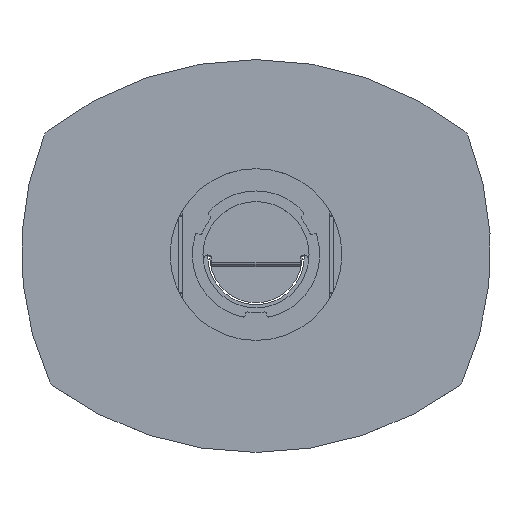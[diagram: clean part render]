
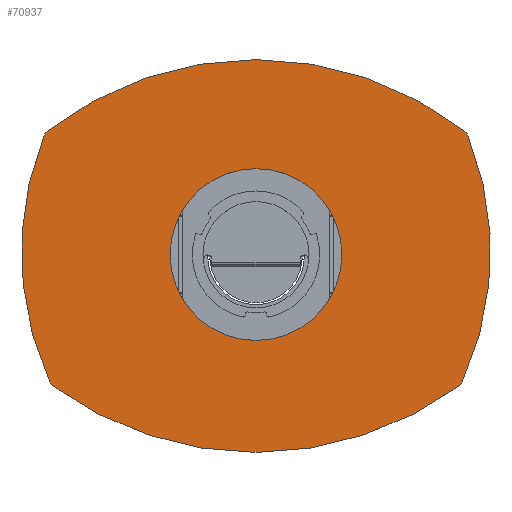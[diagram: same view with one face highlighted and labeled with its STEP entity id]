
A CAD part, top view. The second image highlights one B-rep face of the part: STEP entity #70937.
In plain terms, the highlighted planar face has unit normal (0, 0, 1).
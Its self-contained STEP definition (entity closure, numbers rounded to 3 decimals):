
#4810=CIRCLE('',#77086,89.);
#4813=CIRCLE('',#77090,10.);
#4814=CIRCLE('',#77092,355.);
#4815=CIRCLE('',#77093,10.);
#4816=CIRCLE('',#77094,323.);
#4817=CIRCLE('',#77095,10.);
#4818=CIRCLE('',#77096,352.);
#4819=CIRCLE('',#77097,10.);
#4820=CIRCLE('',#77098,323.);
#5104=FACE_BOUND('',#12576,.T.);
#8698=FACE_OUTER_BOUND('',#12575,.T.);
#12575=EDGE_LOOP('',(#61507,#61508,#61509,#61510,#61511,#61512,#61513,#61514));
#12576=EDGE_LOOP('',(#61515));
#32009=VERTEX_POINT('',#123781);
#32013=VERTEX_POINT('',#123790);
#32014=VERTEX_POINT('',#123792);
#32015=VERTEX_POINT('',#123796);
#32016=VERTEX_POINT('',#123798);
#32017=VERTEX_POINT('',#123800);
#32018=VERTEX_POINT('',#123802);
#32019=VERTEX_POINT('',#123804);
#32020=VERTEX_POINT('',#123806);
#41842=EDGE_CURVE('',#32009,#32009,#4810,.T.);
#41847=EDGE_CURVE('',#32013,#32014,#4813,.T.);
#41849=EDGE_CURVE('',#32015,#32013,#4814,.T.);
#41850=EDGE_CURVE('',#32016,#32015,#4815,.T.);
#41851=EDGE_CURVE('',#32017,#32016,#4816,.T.);
#41852=EDGE_CURVE('',#32018,#32017,#4817,.T.);
#41853=EDGE_CURVE('',#32019,#32018,#4818,.T.);
#41854=EDGE_CURVE('',#32020,#32019,#4819,.T.);
#41855=EDGE_CURVE('',#32014,#32020,#4820,.T.);
#61507=ORIENTED_EDGE('',*,*,#41847,.F.);
#61508=ORIENTED_EDGE('',*,*,#41849,.F.);
#61509=ORIENTED_EDGE('',*,*,#41850,.F.);
#61510=ORIENTED_EDGE('',*,*,#41851,.F.);
#61511=ORIENTED_EDGE('',*,*,#41852,.F.);
#61512=ORIENTED_EDGE('',*,*,#41853,.F.);
#61513=ORIENTED_EDGE('',*,*,#41854,.F.);
#61514=ORIENTED_EDGE('',*,*,#41855,.F.);
#61515=ORIENTED_EDGE('',*,*,#41842,.T.);
#63686=PLANE('',#77091);
#70937=ADVANCED_FACE('',(#8698,#5104),#63686,.F.);
#77086=AXIS2_PLACEMENT_3D('',#123782,#95785,#95786);
#77090=AXIS2_PLACEMENT_3D('',#123793,#95795,#95796);
#77091=AXIS2_PLACEMENT_3D('',#123795,#95798,#95799);
#77092=AXIS2_PLACEMENT_3D('',#123797,#95800,#95801);
#77093=AXIS2_PLACEMENT_3D('',#123799,#95802,#95803);
#77094=AXIS2_PLACEMENT_3D('',#123801,#95804,#95805);
#77095=AXIS2_PLACEMENT_3D('',#123803,#95806,#95807);
#77096=AXIS2_PLACEMENT_3D('',#123805,#95808,#95809);
#77097=AXIS2_PLACEMENT_3D('',#123807,#95810,#95811);
#77098=AXIS2_PLACEMENT_3D('',#123808,#95812,#95813);
#95785=DIRECTION('center_axis',(0.,0.,
-1.));
#95786=DIRECTION('ref_axis',(1.,0.,0.));
#95795=DIRECTION('center_axis',(0.,0.,
-1.));
#95796=DIRECTION('ref_axis',(-0.776,-0.631,0.));
#95798=DIRECTION('center_axis',(0.,0.,
-1.));
#95799=DIRECTION('ref_axis',(1.,0.,0.));
#95800=DIRECTION('center_axis',(0.,0.,
-1.));
#95801=DIRECTION('ref_axis',(0.599,-0.801,0.));
#95802=DIRECTION('center_axis',(0.,0.,
-1.));
#95803=DIRECTION('ref_axis',(0.776,-0.631,0.));
#95804=DIRECTION('center_axis',(0.,0.,
-1.));
#95805=DIRECTION('ref_axis',(0.924,0.382,0.));
#95806=DIRECTION('center_axis',(0.,0.,
-1.));
#95807=DIRECTION('ref_axis',(0.798,0.602,0.));
#95808=DIRECTION('center_axis',(0.,0.,
-1.));
#95809=DIRECTION('ref_axis',(-0.621,0.784,0.));
#95810=DIRECTION('center_axis',(0.,0.,
-1.));
#95811=DIRECTION('ref_axis',(-0.798,0.602,0.));
#95812=DIRECTION('center_axis',(0.,0.,
-1.));
#95813=DIRECTION('ref_axis',(-0.906,-0.424,0.));
#123781=CARTESIAN_POINT('',(-89.,-150.,351.));
#123782=CARTESIAN_POINT('Origin',(0.,-150.,
351.));
#123790=CARTESIAN_POINT('',(-210.525,-285.84,351.));
#123792=CARTESIAN_POINT('',(-213.687,-281.95,351.));
#123793=CARTESIAN_POINT('Origin',(-204.595,-277.788,351.));
#123795=CARTESIAN_POINT('Origin',(0.,-151.453,
351.));
#123796=CARTESIAN_POINT('',(210.525,-285.84,351.));
#123797=CARTESIAN_POINT('Origin',(0.,0.,
351.));
#123798=CARTESIAN_POINT('',(213.687,-281.95,351.));
#123799=CARTESIAN_POINT('Origin',(204.595,-277.788,351.));
#123800=CARTESIAN_POINT('',(219.469,-26.473,351.));
#123801=CARTESIAN_POINT('Origin',(-80.,-147.5,351.));
#123802=CARTESIAN_POINT('',(216.343,-22.332,351.));
#123803=CARTESIAN_POINT('Origin',(210.197,-30.22,351.));
#123804=CARTESIAN_POINT('',(-216.343,-22.332,351.));
#123805=CARTESIAN_POINT('Origin',(0.,-300.,
351.));
#123806=CARTESIAN_POINT('',(-219.469,-26.473,351.));
#123807=CARTESIAN_POINT('Origin',(-210.197,-30.22,351.));
#123808=CARTESIAN_POINT('Origin',(80.,-147.5,351.));
